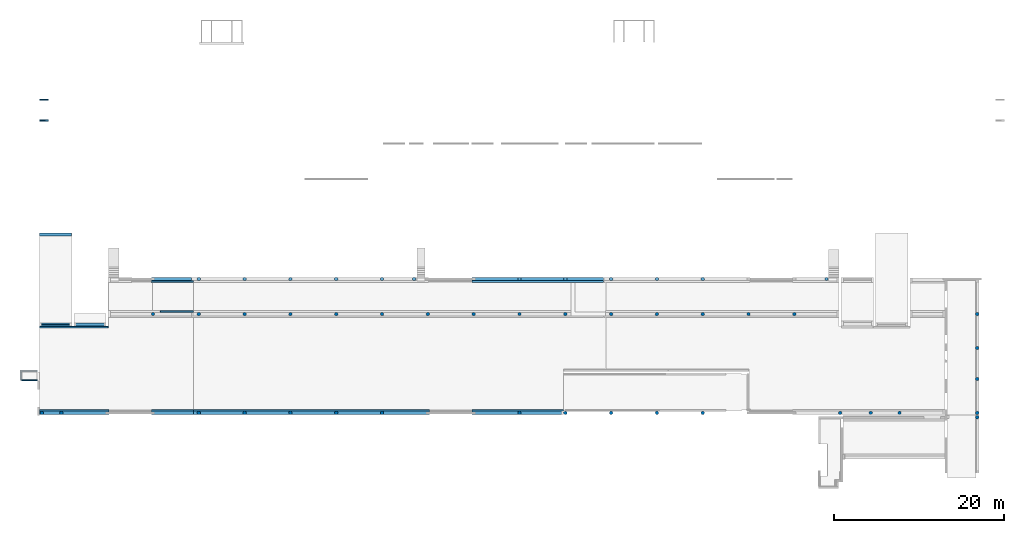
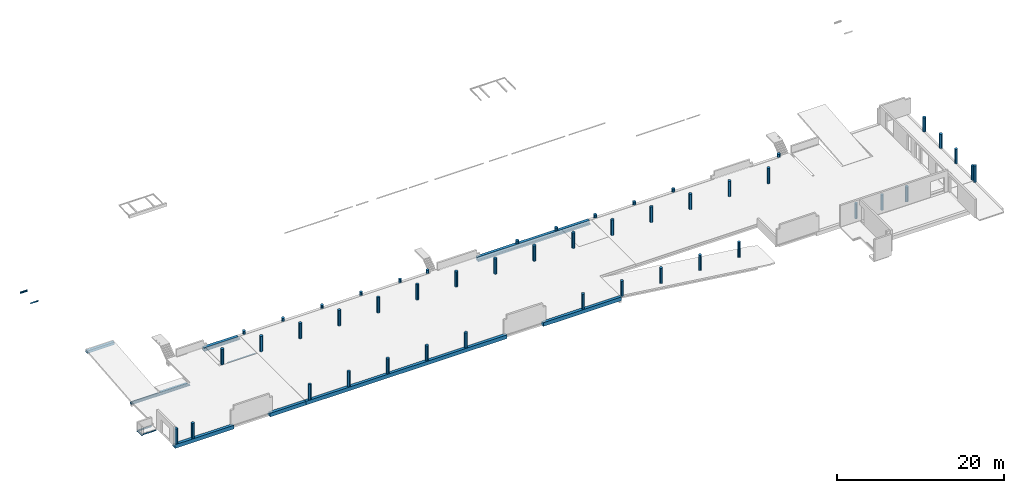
# One storey, part 1 of 9: 47 columns, 17 beams.
"""IFC2X3 building model written with IfcOpenShell, lengths in millimetres."""

from ifc_helpers import new_model, entity, si_unit, converted_unit, derived_unit, direction, frame, frame_2d, origin, origin_2d_with_axis, place, context, subcontext, project, spatial, polyline, circle_curve, parameter, trimmed, segment, composite_curve, rectangle, circle, i_section, outline, extrude, source, transform, mapped, material, type_object, type_shapes, element, save


model = new_model("IFC2X3")

# Units and contexts
model_context = context("Model", 3, precision=0.01, world=origin(), true_north=direction((6.12303176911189e-17, 1.0)))
body_context = subcontext(model_context, "Body", "Model", "MODEL_VIEW")
ifc_project = project(units=[si_unit("LENGTHUNIT", "METRE", prefix="MILLI"), si_unit("AREAUNIT", "SQUARE_METRE"), si_unit("VOLUMEUNIT", "CUBIC_METRE"), converted_unit("PLANEANGLEUNIT", "DEGREE", entity("IfcRatioMeasure", 0.0174532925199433), si_unit("PLANEANGLEUNIT", "RADIAN"), dimensions=[0, 0, 0, 0, 0, 0, 0]), si_unit("MASSUNIT", "GRAM", prefix="KILO"), derived_unit("MASSDENSITYUNIT", [(si_unit("MASSUNIT", "GRAM", prefix="KILO"), 1), (si_unit("LENGTHUNIT", "METRE"), -3)]), si_unit("TIMEUNIT", "SECOND"), si_unit("FREQUENCYUNIT", "HERTZ"), si_unit("THERMODYNAMICTEMPERATUREUNIT", "DEGREE_CELSIUS"), derived_unit("THERMALTRANSMITTANCEUNIT", [(si_unit("MASSUNIT", "GRAM", prefix="KILO"), 1), (si_unit("THERMODYNAMICTEMPERATUREUNIT", "KELVIN"), -1), (si_unit("TIMEUNIT", "SECOND"), -3)]), derived_unit("VOLUMETRICFLOWRATEUNIT", [(si_unit("LENGTHUNIT", "METRE"), 3), (si_unit("TIMEUNIT", "SECOND"), -1)]), si_unit("ELECTRICCURRENTUNIT", "AMPERE"), si_unit("ELECTRICVOLTAGEUNIT", "VOLT"), si_unit("POWERUNIT", "WATT"), si_unit("FORCEUNIT", "NEWTON", prefix="KILO"), si_unit("ILLUMINANCEUNIT", "LUX"), si_unit("LUMINOUSFLUXUNIT", "LUMEN"), si_unit("LUMINOUSINTENSITYUNIT", "CANDELA"), derived_unit("USERDEFINED", [(si_unit("MASSUNIT", "GRAM", prefix="KILO"), -1), (si_unit("LENGTHUNIT", "METRE"), -2), (si_unit("TIMEUNIT", "SECOND"), 3), (si_unit("LUMINOUSFLUXUNIT", "LUMEN"), 1)]), derived_unit("LINEARVELOCITYUNIT", [(si_unit("LENGTHUNIT", "METRE"), 1), (si_unit("TIMEUNIT", "SECOND"), -1)]), si_unit("PRESSUREUNIT", "PASCAL"), derived_unit("USERDEFINED", [(si_unit("LENGTHUNIT", "METRE"), -2), (si_unit("MASSUNIT", "GRAM", prefix="KILO"), 1), (si_unit("TIMEUNIT", "SECOND"), -2)])], contexts=[model_context])

# Site, building, storey
site_placement = place(None, origin())
site = spatial("IfcSite", under=ifc_project, at=site_placement, Name="Default", CompositionType="ELEMENT")
building_placement = place(site_placement, origin())
building = spatial("IfcBuilding", under=site, at=building_placement, Name="niet gebruiken", CompositionType="ELEMENT")
storey_placement = place(building_placement, frame((0.0, 0.0, 2770.0)))
storey = spatial("IfcBuildingStorey", under=building, at=storey_placement, Name="00a eerste tussenverdieping", CompositionType="ELEMENT", Elevation=2770.00000000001)

# Columns
ifc_material_1 = material(Name="NLRS_f2_beton prefab")
column_type_1 = type_object("IfcColumnType", Name="ø400", PredefinedType="COLUMN", material=ifc_material_1)
shared_shape_1 = source(origin(), body_context, "Body", "SweptSolid", [
    extrude(circle(Radius=200.0, at=frame_2d((1.69197988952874e-14, -3.02923644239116e-13), x_axis=(1.0, 0.0))), frame((0.0, 0.0, 2720.0)), (0.0, 0.0, 1.0), 2300.0),
])
type_shapes(column_type_1, [shared_shape_1])
for number, where in (
    (1, (21600.0, 20846.0, -2770.0)),
    (2, (27000.0, 20846.0, -2770.0)),
    (3, (32400.0, 20846.0, -2770.0)),
    (4, (37800.0, 20846.0, -2770.0)),
    (5, (43200.0, 20846.0, -2770.0)),
    (6, (48600.0, 20846.0, -2770.0)),
    (7, (54000.0, 20846.0, -2770.0)),
    (8, (59400.0, 20846.0, -2770.0)),
    (9, (64800.0, 20846.0, -2770.0)),
    (10, (70200.0, 20846.0, -2770.0)),
    (11, (75600.0, 20846.0, -2770.0)),
    (12, (81000.0, 20846.0, -2770.0)),
    (13, (86400.0, 20846.0, -2770.0)),
    (14, (91800.0, 20846.0, -2770.0)),
    (15, (97200.0, 20846.0, -2770.0)),
):
    element("IfcColumn", number, at=place(storey_placement, frame(where)), inside=storey, type_object=column_type_1, material=ifc_material_1, Name="NLRS_28. kolom rond_gen:ø400", ObjectType="ø400", context=body_context, shape_type="MappedRepresentation", body=[
        mapped(shared_shape_1, transform((0.0, 0.0, 0.0), scale=1.0)),
    ])
column_type_2 = type_object("IfcColumnType", Name="ø400", PredefinedType="COLUMN", material=ifc_material_1)
shared_shape_2 = source(origin(), body_context, "Body", "SweptSolid", [
    extrude(circle(Radius=200.0, at=frame_2d((1.69197988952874e-14, -3.02923644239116e-13), x_axis=(1.0, 0.0))), frame((0.0, 0.0, 2800.0)), (0.0, 0.0, 1.0), 459.999999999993),
])
type_shapes(column_type_2, [shared_shape_2])
for number, where in (
    (16, (27000.0, 24976.0, -2770.0)),
    (17, (32400.0, 24976.0, -2770.0)),
    (18, (37800.0, 24976.0, -2770.0)),
    (19, (43200.0, 24976.0, -2770.0)),
    (20, (48600.0, 24976.0, -2770.0)),
    (21, (52390.0, 24976.0, -2770.0)),
    (22, (64800.0, 24976.0, -2770.0)),
    (23, (70200.0, 24976.0, -2770.0)),
    (24, (75600.0, 24976.0, -2770.0)),
    (25, (81000.0, 24976.0, -2770.0)),
    (26, (86400.0, 24976.0, -2770.0)),
    (27, (100990.0, 24976.0, -2770.0)),
):
    element("IfcColumn", number, at=place(storey_placement, frame(where)), inside=storey, type_object=column_type_2, material=ifc_material_1, Name="NLRS_28. kolom rond_gen:ø400", ObjectType="ø400", context=body_context, shape_type="MappedRepresentation", body=[
        mapped(shared_shape_2, transform((0.0, 0.0, 0.0), scale=1.0)),
    ])
column_type_3 = type_object("IfcColumnType", Name="ø400", PredefinedType="COLUMN", material=ifc_material_1)
shared_shape_3 = source(origin(), body_context, "Body", "SweptSolid", [
    extrude(circle(Radius=200.0, at=frame_2d((1.69197988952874e-14, -3.02923644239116e-13), x_axis=(1.0, 0.0))), frame((0.0, 0.0, 2800.0)), (0.0, 0.0, 1.0), 2220.0),
])
type_shapes(column_type_3, [shared_shape_3])
for number, where in (
    (28, (10800.0, 9196.0, -2770.0)),
    (29, (27000.0, 9196.0, -2770.0)),
    (30, (32400.0, 9196.0, -2770.0)),
    (31, (37800.0, 9196.0, -2770.0)),
    (32, (43200.0, 9196.0, -2770.0)),
    (33, (48600.0, 9196.0, -2770.0)),
    (34, (64800.0, 9196.0, -2770.0)),
    (35, (70200.0, 9196.0, -2770.0)),
    (36, (75600.0, 9196.0, -2770.0)),
    (37, (81000.0, 9196.0, -2770.0)),
    (38, (86400.0, 9196.0, -2770.0)),
    (39, (102600.0, 9196.0, -2770.0)),
    (40, (109600.0, 9196.0, -2770.0)),
    (41, (106200.0, 9196.0, -2770.0)),
    (42, (8500.0, 9196.0, -2770.0)),
):
    element("IfcColumn", number, at=place(storey_placement, frame(where)), inside=storey, type_object=column_type_3, material=ifc_material_1, Name="NLRS_28. kolom rond_gen:ø400", ObjectType="ø400", context=body_context, shape_type="MappedRepresentation", body=[
        mapped(shared_shape_3, transform((0.0, 0.0, 0.0), scale=1.0)),
    ])
column_type_4 = type_object("IfcColumnType", Name="ø400", PredefinedType="COLUMN", material=ifc_material_1)
shared_shape_4 = source(origin(), body_context, "Body", "SweptSolid", [
    extrude(circle(Radius=199.999999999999, at=origin_2d_with_axis()), frame((118750.0, 9196.0, 2790.0), z_axis=(0.0, 0.0, 1.0), x_axis=(0.0, -1.0, 0.0)), (0.0, 0.0, 1.0), 2090.0),
])
type_shapes(column_type_4, [shared_shape_4])
column_1_placement = place(storey_placement, frame((0.0, 0.0, -2770.0)))
element("IfcColumn", 43, at=column_1_placement, inside=storey, type_object=column_type_4, material=ifc_material_1, Name="NLRS_28. kolom rond_gen:ø400", ObjectType="ø400", context=body_context, shape_type="MappedRepresentation", body=[
    mapped(shared_shape_4, transform((0.0, 0.0, 0.0), scale=1.0)),
])
column_type_5 = type_object("IfcColumnType", Name="ø400", PredefinedType="COLUMN", material=ifc_material_1)
shared_shape_5 = source(origin(), body_context, "Body", "SweptSolid", [
    extrude(circle(Radius=199.999999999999, at=origin_2d_with_axis()), frame((118750.0, 13196.0, 2790.0), z_axis=(0.0, 0.0, 1.0), x_axis=(0.0, -1.0, 0.0)), (0.0, 0.0, 1.0), 2090.0),
])
type_shapes(column_type_5, [shared_shape_5])
column_2_placement = place(storey_placement, frame((0.0, 0.0, -2770.0)))
element("IfcColumn", 44, at=column_2_placement, inside=storey, type_object=column_type_5, material=ifc_material_1, Name="NLRS_28. kolom rond_gen:ø400", ObjectType="ø400", context=body_context, shape_type="MappedRepresentation", body=[
    mapped(shared_shape_5, transform((0.0, 0.0, 0.0), scale=1.0)),
])
column_type_6 = type_object("IfcColumnType", Name="ø400", PredefinedType="COLUMN", material=ifc_material_1)
shared_shape_6 = source(origin(), body_context, "Body", "SweptSolid", [
    extrude(circle(Radius=199.999999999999, at=origin_2d_with_axis()), frame((118750.0, 16846.0, 2790.0), z_axis=(0.0, 0.0, 1.0), x_axis=(0.0, -1.0, 0.0)), (0.0, 0.0, 1.0), 2090.0),
])
type_shapes(column_type_6, [shared_shape_6])
column_3_placement = place(storey_placement, frame((0.0, 0.0, -2770.0)))
element("IfcColumn", 45, at=column_3_placement, inside=storey, type_object=column_type_6, material=ifc_material_1, Name="NLRS_28. kolom rond_gen:ø400", ObjectType="ø400", context=body_context, shape_type="MappedRepresentation", body=[
    mapped(shared_shape_6, transform((0.0, 0.0, 0.0), scale=1.0)),
])
column_type_7 = type_object("IfcColumnType", Name="ø400", PredefinedType="COLUMN", material=ifc_material_1)
shared_shape_7 = source(origin(), body_context, "Body", "SweptSolid", [
    extrude(circle(Radius=200.000000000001, at=origin_2d_with_axis()), frame((118750.0, 20846.0, 2790.0), z_axis=(0.0, 0.0, 1.0), x_axis=(0.0, -1.0, 0.0)), (0.0, 0.0, 1.0), 2090.0),
])
type_shapes(column_type_7, [shared_shape_7])
column_4_placement = place(storey_placement, frame((0.0, 0.0, -2770.0)))
element("IfcColumn", 46, at=column_4_placement, inside=storey, type_object=column_type_7, material=ifc_material_1, Name="NLRS_28. kolom rond_gen:ø400", ObjectType="ø400", context=body_context, shape_type="MappedRepresentation", body=[
    mapped(shared_shape_7, transform((0.0, 0.0, 0.0), scale=1.0)),
])
column_type_8 = type_object("IfcColumnType", Name="ø400", PredefinedType="COLUMN", material=ifc_material_1)
shared_shape_8 = source(origin(), body_context, "Body", "SweptSolid", [
    extrude(circle(Radius=199.999999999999, at=origin_2d_with_axis()), frame((118750.0, 8671.0, 2790.0), z_axis=(0.0, 0.0, 1.0), x_axis=(0.0, -1.0, 0.0)), (0.0, 0.0, 1.0), 2400.0),
])
type_shapes(column_type_8, [shared_shape_8])
column_5_placement = place(storey_placement, frame((0.0, 0.0, -2770.0)))
element("IfcColumn", 47, at=column_5_placement, inside=storey, type_object=column_type_8, material=ifc_material_1, Name="NLRS_28. kolom rond_gen:ø400", ObjectType="ø400", context=body_context, shape_type="MappedRepresentation", body=[
    mapped(shared_shape_8, transform((0.0, 0.0, 0.0), scale=1.0)),
])

# Beams
ifc_material_2 = material(Name="NLRS_h2_staal")
beam_type_1 = type_object("IfcBeamType", Name="NLRS_28.11_SF_WPB_stalen ligger hoekprofiel gelijkzijdig_gen:ligger gelijzijdig hoekprofiel LEQU_150x150x15", PredefinedType="BEAM")
beam_1_placement = place(storey_placement, frame((8245.0, 46133.5000000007, -330.0)))
element("IfcBeam", 48, at=beam_1_placement, inside=storey, type_object=beam_type_1, material=ifc_material_2, Name="NLRS_28.11_SF_WPB_stalen ligger hoekprofiel gelijkzijdig_gen:ligger gelijzijdig hoekprofiel LEQU_150x150x15", ObjectType="NLRS_28.11_SF_WPB_stalen ligger hoekprofiel gelijkzijdig_gen:ligger gelijzijdig hoekprofiel LEQU_150x150x15", context=body_context, shape_type="SweptSolid", body=[
    extrude(outline(composite_curve([segment(polyline([(49.6666666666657, -93.3333333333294), (56.6666666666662, -93.3333333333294)]), True, "CONTINUOUS"), segment(polyline([(56.6666666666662, -93.3333333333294), (56.6666666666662, 56.6666666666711)]), True, "CONTINUOUS"), segment(polyline([(56.6666666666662, 56.6666666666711), (-93.3333333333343, 56.6666666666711)]), True, "CONTINUOUS"), segment(polyline([(-93.3333333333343, 56.6666666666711), (-93.3333333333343, 49.6666666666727)]), True, "CONTINUOUS"), segment(trimmed(circle_curve(frame_2d((-85.3333333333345, 49.6666666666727), x_axis=(-1.0, 0.0)), 7.99999999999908), [parameter(0.0)], [parameter(90.0000000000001)], True, "PARAMETER"), True, "CONTINUOUS"), segment(polyline([(-85.3333333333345, 41.6666666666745), (25.6666666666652, 41.6666666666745)]), True, "CONTINUOUS"), segment(trimmed(circle_curve(frame_2d((25.666666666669, 25.6666666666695), x_axis=(0.0, 1.0)), 15.9999999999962), [parameter(269.999999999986)], [parameter(0.0)], True, "PARAMETER"), False, "CONTINUOUS"), segment(polyline([(41.6666666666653, 25.6666666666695), (41.6666666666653, -85.3333333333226)]), True, "CONTINUOUS"), segment(trimmed(circle_curve(frame_2d((49.6666666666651, -85.3333333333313), x_axis=(-1.0, 0.0)), 7.99999999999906), [parameter(0.0)], [parameter(90.0000000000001)], True, "PARAMETER"), True, "CONTINUOUS")], self_intersect=False)), frame((0.0, -14.1666666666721, 56.6666666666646), z_axis=(1.0, 0.0, 0.0), x_axis=(0.0, 0.0, -1.0)), (0.0, 0.0, 1.0), 999.999999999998),
])
beam_2_placement = place(storey_placement, frame((8245.0, 43618.5000000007, -330.0)))
element("IfcBeam", 49, at=beam_2_placement, inside=storey, type_object=beam_type_1, material=ifc_material_2, Name="NLRS_28.11_SF_WPB_stalen ligger hoekprofiel gelijkzijdig_gen:ligger gelijzijdig hoekprofiel LEQU_150x150x15", ObjectType="NLRS_28.11_SF_WPB_stalen ligger hoekprofiel gelijkzijdig_gen:ligger gelijzijdig hoekprofiel LEQU_150x150x15", context=body_context, shape_type="SweptSolid", body=[
    extrude(outline(composite_curve([segment(polyline([(-93.3333333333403, -56.6666666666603), (56.6666666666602, -56.6666666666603)]), True, "CONTINUOUS"), segment(polyline([(56.6666666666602, -56.6666666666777), (56.6666666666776, 93.3333333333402)]), True, "CONTINUOUS"), segment(polyline([(56.6666666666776, 93.3333333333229), (49.666666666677, 93.333333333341)]), True, "CONTINUOUS"), segment(trimmed(circle_curve(frame_2d((49.6666666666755, 85.3333333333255), x_axis=(0.0, 1.0)), 7.99999999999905), [parameter(0.0)], [parameter(90.0000000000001)], True, "PARAMETER"), True, "CONTINUOUS"), segment(polyline([(41.6666666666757, 85.3333333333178), (41.6666666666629, -25.6666666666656)]), True, "CONTINUOUS"), segment(trimmed(circle_curve(frame_2d((25.6666666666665, -25.6666666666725), x_axis=(1.0, 0.0)), 15.9999999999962), [parameter(269.999999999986)], [parameter(0.0)], True, "PARAMETER"), False, "CONTINUOUS"), segment(polyline([(25.6666666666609, -41.6666666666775), (-85.3333333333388, -41.6666666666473)]), True, "CONTINUOUS"), segment(trimmed(circle_curve(frame_2d((-85.3333333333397, -49.6666666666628), x_axis=(0.0, 1.0)), 7.99999999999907), [parameter(0.0)], [parameter(90.0000000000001)], True, "PARAMETER"), True, "CONTINUOUS"), segment(polyline([(-93.3333333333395, -49.6666666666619), (-93.3333333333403, -56.6666666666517)]), True, "CONTINUOUS")], self_intersect=False)), frame((0.0, 14.1666666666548, 56.6666666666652), z_axis=(1.0, 0.0, 0.0), x_axis=(0.0, 0.0, -1.0)), (0.0, 0.0, 1.0), 999.999999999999),
])
beam_type_2 = type_object("IfcBeamType", Name="NLRS_28.11_SF_WPB_prefabbeton balk enkele sponning_gen:600x540/200x200", PredefinedType="BEAM")
beam_3_placement = place(storey_placement, frame((8245.0, 9296.0, 10.0)))
element("IfcBeam", 50, at=beam_3_placement, inside=storey, type_object=beam_type_2, material=ifc_material_1, Name="NLRS_28.11_SF_WPB_prefabbeton balk enkele sponning_gen:600x540/200x200", ObjectType="NLRS_28.11_SF_WPB_prefabbeton balk enkele sponning_gen:600x540/200x200", context=body_context, shape_type="SweptSolid", body=[
    extrude(outline(polyline([(-293.333333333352, -333.333333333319), (246.666666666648, -333.333333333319), (246.66666666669, 266.666666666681), (46.6666666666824, 266.666666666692), (46.666666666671, 66.6666666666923), (-293.333333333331, 66.6666666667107), (-293.333333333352, -333.333333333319)])), frame((0.0, 33.3333333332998, -293.333333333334), z_axis=(1.0, 0.0, 0.0), x_axis=(0.0, 0.0, -1.0)), (0.0, 0.0, 1.0), 8155.0000000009),
])
beam_4_placement = place(storey_placement, frame((26370.0, 9296.0, 10.0)))
element("IfcBeam", 51, at=beam_4_placement, inside=storey, type_object=beam_type_2, material=ifc_material_1, Name="NLRS_28.11_SF_WPB_prefabbeton balk enkele sponning_gen:600x540/200x200", ObjectType="NLRS_28.11_SF_WPB_prefabbeton balk enkele sponning_gen:600x540/200x200", context=body_context, shape_type="SweptSolid", body=[
    extrude(outline(polyline([(-293.333333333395, -333.33333333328), (246.666666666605, -333.33333333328), (246.666666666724, 266.66666666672), (46.6666666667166, 266.666666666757), (46.6666666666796, 66.6666666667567), (-293.333333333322, 66.6666666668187), (-293.333333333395, -333.33333333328)])), frame((0.0, 33.3333333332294, -293.333333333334), z_axis=(1.0, 0.0, 0.0), x_axis=(0.0, 0.0, -1.0)), (0.0, 0.0, 1.0), 27829.9999999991),
])
beam_5_placement = place(storey_placement, frame((21400.0, 9296.0, 10.0)))
element("IfcBeam", 52, at=beam_5_placement, inside=storey, type_object=beam_type_2, material=ifc_material_1, Name="NLRS_28.11_SF_WPB_prefabbeton balk enkele sponning_gen:600x540/200x200", ObjectType="NLRS_28.11_SF_WPB_prefabbeton balk enkele sponning_gen:600x540/200x200", context=body_context, shape_type="SweptSolid", body=[
    extrude(outline(polyline([(-293.333333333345, -333.333333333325), (246.666666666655, -333.333333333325), (246.666666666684, 266.666666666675), (46.6666666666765, 266.666666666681), (46.6666666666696, 66.6666666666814), (-293.333333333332, 66.6666666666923), (-293.333333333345, -333.333333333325)])), frame((0.0, 33.3333333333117, -293.333333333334), z_axis=(1.0, 0.0, 0.0), x_axis=(0.0, 0.0, -1.0)), (0.0, 0.0, 1.0), 4949.99999999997),
])
beam_6_placement = place(storey_placement, frame((59200.0, 24876.0, 10.0)))
element("IfcBeam", 53, at=beam_6_placement, inside=storey, type_object=beam_type_2, material=ifc_material_1, Name="NLRS_28.11_SF_WPB_prefabbeton balk enkele sponning_gen:600x540/200x200", ObjectType="NLRS_28.11_SF_WPB_prefabbeton balk enkele sponning_gen:600x540/200x200", context=body_context, shape_type="SweptSolid", body=[
    extrude(outline(polyline([(46.6666666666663, -266.666666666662), (246.666666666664, -266.666666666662), (246.666666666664, 333.333333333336), (-293.333333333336, 333.333333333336), (-293.333333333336, -66.6666666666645), (46.6666666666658, -66.6666666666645), (46.6666666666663, -266.666666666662)])), frame((0.0, -33.3333333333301, -293.333333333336), z_axis=(1.0, 0.0, 0.0), x_axis=(0.0, 0.0, -1.0)), (0.0, 0.0, 1.0), 15530.0000000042),
])
beam_7_placement = place(storey_placement, frame((59200.0, 9296.0, 10.0)))
element("IfcBeam", 54, at=beam_7_placement, inside=storey, type_object=beam_type_2, material=ifc_material_1, Name="NLRS_28.11_SF_WPB_prefabbeton balk enkele sponning_gen:600x540/200x200", ObjectType="NLRS_28.11_SF_WPB_prefabbeton balk enkele sponning_gen:600x540/200x200", context=body_context, shape_type="SweptSolid", body=[
    extrude(outline(polyline([(-293.333333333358, -333.333333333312), (246.666666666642, -333.333333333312), (246.666666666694, 266.666666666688), (46.6666666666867, 266.666666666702), (46.6666666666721, 66.6666666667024), (-293.33333333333, 66.6666666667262), (-293.333333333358, -333.333333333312)])), frame((0.0, 33.33333333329, -293.333333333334), z_axis=(1.0, 0.0, 0.0), x_axis=(0.0, 0.0, -1.0)), (0.0, 0.0, 1.0), 10800.0000000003),
])
beam_type_3 = type_object("IfcBeamType", Name="NLRS_28.11_SF_WPB_stalen ligger HEA_gen:ligger HEA 160", PredefinedType="BEAM")
beam_8_placement = place(storey_placement, frame((6050.0, 14138.0, -200.0)))
element("IfcBeam", 55, at=beam_8_placement, inside=storey, type_object=beam_type_3, material=ifc_material_2, Name="NLRS_28.11_SF_WPB_stalen ligger HEA_gen:ligger HEA 160", ObjectType="NLRS_28.11_SF_WPB_stalen ligger HEA_gen:ligger HEA 160", context=body_context, shape_type="SweptSolid", body=[
    extrude(i_section(OverallWidth=160.000000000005, OverallDepth=152.000000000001, WebThickness=5.99999999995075, FlangeThickness=8.99999999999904, FilletRadius=15.0000000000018, at=frame_2d((-1.35713662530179e-12, 3.24718030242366e-12), x_axis=(0.0, 1.0))), frame((-125.0, 0.0, -76.0), z_axis=(1.0, 0.0, 0.0), x_axis=(0.0, 0.0, -1.0)), (0.0, 0.0, 1.0), 2040.0),
])
beam_9_placement = place(storey_placement, frame((6050.0, 14138.0, -200.0), z_axis=(0.0, 0.0, 1.0), x_axis=(0.0, -1.0, 0.0)))
element("IfcBeam", 56, at=beam_9_placement, inside=storey, type_object=beam_type_3, material=ifc_material_2, Name="NLRS_28.11_SF_WPB_stalen ligger HEA_gen:ligger HEA 160", ObjectType="NLRS_28.11_SF_WPB_stalen ligger HEA_gen:ligger HEA 160", context=body_context, shape_type="SweptSolid", body=[
    extrude(i_section(OverallWidth=159.999999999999, OverallDepth=152.000000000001, WebThickness=5.99999999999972, FlangeThickness=9.00000000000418, FilletRadius=14.9999999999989, at=frame_2d((-8.17124146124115e-13, 1.62714286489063e-12), x_axis=(0.0, 1.0))), frame((92.7000000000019, 0.0, -76.0), z_axis=(1.0, 0.0, 0.0), x_axis=(0.0, 0.0, -1.0)), (0.0, 0.0, 1.0), 1049.3),
])
beam_type_4 = type_object("IfcBeamType", Name="NLRS_28.11_SF_WPB_stalen ligger hoekprofiel gelijkzijdig_gen:ligger gelijzijdig hoekprofiel LEQU_200x200x15", PredefinedType="BEAM")
beam_10_placement = place(storey_placement, frame((8245.0, 19226.0, -252.500000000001)))
element("IfcBeam", 57, at=beam_10_placement, inside=storey, type_object=beam_type_4, material=ifc_material_2, Name="NLRS_28.11_SF_WPB_stalen ligger hoekprofiel gelijkzijdig_gen:ligger gelijzijdig hoekprofiel LEQU_200x200x15", ObjectType="NLRS_28.11_SF_WPB_stalen ligger hoekprofiel gelijkzijdig_gen:ligger gelijzijdig hoekprofiel LEQU_200x200x15", context=body_context, shape_type="SweptSolid", body=[
    extrude(outline(composite_curve([segment(polyline([(66.3333333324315, -126.66666666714), (73.3333333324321, -126.66666666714)]), True, "CONTINUOUS"), segment(polyline([(73.3333333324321, -126.66666666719), (73.3333333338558, 73.333333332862)]), True, "CONTINUOUS"), segment(polyline([(73.3333333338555, 73.33333333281), (-126.666666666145, 73.3333333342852)]), True, "CONTINUOUS"), segment(polyline([(-126.666666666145, 73.3333333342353), (-126.666666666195, 66.3333333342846)]), True, "CONTINUOUS"), segment(trimmed(circle_curve(frame_2d((-118.666666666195, 66.3333333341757), x_axis=(-1.0, 0.0)), 8.00000000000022), [parameter(0.0)], [parameter(90.0000000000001)], True, "PARAMETER"), True, "CONTINUOUS"), segment(polyline([(-118.666666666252, 58.3333333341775), (42.333333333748, 58.3333333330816)]), True, "CONTINUOUS"), segment(trimmed(circle_curve(frame_2d((42.3333333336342, 42.3333333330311), x_axis=(0.0, 1.0)), 16.0000000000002), [parameter(270.0)], [parameter(0.0)], True, "PARAMETER"), False, "CONTINUOUS"), segment(polyline([(58.3333333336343, 42.3333333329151), (58.3333333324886, -118.666666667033)]), True, "CONTINUOUS"), segment(trimmed(circle_curve(frame_2d((66.3333333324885, -118.66666666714), x_axis=(-1.0, 0.0)), 8.00000000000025), [parameter(0.0)], [parameter(89.9999999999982)], True, "PARAMETER"), True, "CONTINUOUS")], self_intersect=False)), frame((0.0, 126.666666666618, -19.1666666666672), z_axis=(1.0, 0.0, 0.0), x_axis=(0.0, 0.0, -1.0)), (0.0, 0.0, 1.0), 8080.00000000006),
])
beam_11_placement = place(storey_placement, frame((21400.0, 24576.0, -252.499999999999)))
element("IfcBeam", 58, at=beam_11_placement, inside=storey, type_object=beam_type_4, material=ifc_material_2, Name="NLRS_28.11_SF_WPB_stalen ligger hoekprofiel gelijkzijdig_gen:ligger gelijzijdig hoekprofiel LEQU_200x200x15", ObjectType="NLRS_28.11_SF_WPB_stalen ligger hoekprofiel gelijkzijdig_gen:ligger gelijzijdig hoekprofiel LEQU_200x200x15", context=body_context, shape_type="SweptSolid", body=[
    extrude(outline(composite_curve([segment(polyline([(66.3333333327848, -126.666666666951), (73.3333333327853, -126.666666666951)]), True, "CONTINUOUS"), segment(polyline([(73.3333333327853, -126.666666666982), (73.3333333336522, 73.333333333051)]), True, "CONTINUOUS"), segment(polyline([(73.3333333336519, 73.3333333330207), (-126.666666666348, 73.3333333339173)]), True, "CONTINUOUS"), segment(polyline([(-126.666666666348, 73.3333333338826), (-126.666666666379, 66.3333333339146)]), True, "CONTINUOUS"), segment(trimmed(circle_curve(frame_2d((-118.666666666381, 66.3333333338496), x_axis=(-1.0, 0.0)), 7.99999999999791), [parameter(0.0)], [parameter(90.0000000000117)], True, "PARAMETER"), True, "CONTINUOUS"), segment(polyline([(-118.666666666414, 58.3333333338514), (42.3333333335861, 58.3333333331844)]), True, "CONTINUOUS"), segment(trimmed(circle_curve(frame_2d((42.3333333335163, 42.3333333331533), x_axis=(0.0, 1.0)), 16.0000000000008), [parameter(270.000000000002)], [parameter(0.0)], True, "PARAMETER"), False, "CONTINUOUS"), segment(polyline([(58.333333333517, 42.333333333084), (58.3333333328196, -118.666666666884)]), True, "CONTINUOUS"), segment(trimmed(circle_curve(frame_2d((66.3333333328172, -118.666666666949), x_axis=(-1.0, 0.0)), 7.99999999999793), [parameter(0.0)], [parameter(90.0000000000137)], True, "PARAMETER"), True, "CONTINUOUS")], self_intersect=False)), frame((0.0, 126.666666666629, -19.1666666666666), z_axis=(1.0, 0.0, 0.0), x_axis=(0.0, 0.0, -1.0)), (0.0, 0.0, 1.0), 4950.00000000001),
])
beam_12_placement = place(storey_placement, frame((22470.0, 21246.0, -252.5)))
element("IfcBeam", 59, at=beam_12_placement, inside=storey, type_object=beam_type_4, material=ifc_material_2, Name="NLRS_28.11_SF_WPB_stalen ligger hoekprofiel gelijkzijdig_gen:ligger gelijzijdig hoekprofiel LEQU_200x200x15", ObjectType="NLRS_28.11_SF_WPB_stalen ligger hoekprofiel gelijkzijdig_gen:ligger gelijzijdig hoekprofiel LEQU_200x200x15", context=body_context, shape_type="SweptSolid", body=[
    extrude(outline(composite_curve([segment(polyline([(-126.66666666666, -73.3333333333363), (73.3333333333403, -73.3333333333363)]), True, "CONTINUOUS"), segment(polyline([(73.3333333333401, -73.3333333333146), (73.3333333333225, 126.666666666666)]), True, "CONTINUOUS"), segment(polyline([(73.3333333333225, 126.666666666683), (66.3333333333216, 126.666666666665)]), True, "CONTINUOUS"), segment(trimmed(circle_curve(frame_2d((66.3333333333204, 118.666666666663), x_axis=(0.0, 1.0)), 7.99999999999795), [parameter(0.0)], [parameter(90.0000000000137)], True, "PARAMETER"), True, "CONTINUOUS"), segment(polyline([(58.3333333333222, 118.666666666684), (58.3333333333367, -42.333333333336)]), True, "CONTINUOUS"), segment(trimmed(circle_curve(frame_2d((42.333333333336, -42.3333333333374), x_axis=(1.0, 0.0)), 16.0000000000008), [parameter(270.000000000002)], [parameter(0.0)], True, "PARAMETER"), False, "CONTINUOUS"), segment(polyline([(42.333333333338, -58.3333333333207), (-118.666666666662, -58.333333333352)]), True, "CONTINUOUS"), segment(trimmed(circle_curve(frame_2d((-118.666666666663, -66.3333333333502), x_axis=(0.0, 1.0)), 7.99999999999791), [parameter(0.0)], [parameter(90.0000000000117)], True, "PARAMETER"), True, "CONTINUOUS"), segment(polyline([(-126.666666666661, -66.3333333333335), (-126.66666666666, -73.3333333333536)]), True, "CONTINUOUS")], self_intersect=False)), frame((10.0, -126.666666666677, -19.1666666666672), z_axis=(1.0, 0.0, 0.0), x_axis=(0.0, 0.0, -1.0)), (0.0, 0.0, 1.0), 3870.00000000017),
])
beam_type_5 = type_object("IfcBeamType", Name="NLRS_28.11_SF_WPB_stalen ligger hoekprofiel gelijkzijdig_gen:ligger gelijzijdig hoekprofiel LEQU_120x120x12", PredefinedType="BEAM")
beam_13_placement = place(storey_placement, frame((6130.0, 13020.0, -92.0)))
element("IfcBeam", 60, at=beam_13_placement, inside=storey, type_object=beam_type_5, material=ifc_material_2, Name="NLRS_28.11_SF_WPB_stalen ligger hoekprofiel gelijkzijdig_gen:ligger gelijzijdig hoekprofiel LEQU_120x120x12", ObjectType="NLRS_28.11_SF_WPB_stalen ligger hoekprofiel gelijkzijdig_gen:ligger gelijzijdig hoekprofiel LEQU_120x120x12", context=body_context, shape_type="SweptSolid", body=[
    extrude(outline(composite_curve([segment(polyline([(-74.6666666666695, -45.3333333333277), (45.3333333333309, -45.3333333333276)]), True, "CONTINUOUS"), segment(polyline([(45.3333333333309, -45.3333333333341), (45.3333333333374, 74.6666666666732)]), True, "CONTINUOUS"), segment(polyline([(45.3333333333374, 74.6666666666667), (39.8333333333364, 74.6666666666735)]), True, "CONTINUOUS"), segment(trimmed(circle_curve(frame_2d((39.8333333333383, 68.1666666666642), x_axis=(0.0, 1.0)), 6.50000000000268), [parameter(0.0)], [parameter(89.9999999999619)], True, "PARAMETER"), True, "CONTINUOUS"), segment(polyline([(33.3333333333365, 68.1666666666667), (33.3333333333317, -20.3333333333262)]), True, "CONTINUOUS"), segment(trimmed(circle_curve(frame_2d((20.3333333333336, -20.3333333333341), x_axis=(1.0, 0.0)), 12.9999999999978), [parameter(269.999999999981)], [parameter(0.0)], True, "PARAMETER"), False, "CONTINUOUS"), segment(polyline([(20.3333333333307, -33.3333333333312), (-68.1666666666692, -33.3333333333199)]), True, "CONTINUOUS"), segment(trimmed(circle_curve(frame_2d((-68.1666666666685, -39.8333333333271), x_axis=(0.0, 1.0)), 6.50000000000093), [parameter(0.0)], [parameter(89.9999999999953)], True, "PARAMETER"), True, "CONTINUOUS"), segment(polyline([(-74.6666666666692, -39.8333333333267), (-74.6666666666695, -45.3333333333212)]), True, "CONTINUOUS")], self_intersect=False)), frame((12.7000006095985, 11.3333333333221, -74.6666666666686), z_axis=(1.0, 0.0, 0.0), x_axis=(0.0, 0.0, -1.0)), (0.0, 0.0, 1.0), 1822.02346250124),
])
beam_type_6 = type_object("IfcBeamType", Name="NLRS_28.11_SF_WPB_prefabbeton balk recht_gen:400x540", PredefinedType="BEAM")
beam_14_placement = place(storey_placement, frame((21400.0, 24976.0, 10.0)))
element("IfcBeam", 61, at=beam_14_placement, inside=storey, type_object=beam_type_6, material=ifc_material_1, Name="NLRS_28.11_SF_WPB_prefabbeton balk recht_gen:400x540", ObjectType="NLRS_28.11_SF_WPB_prefabbeton balk recht_gen:400x540", context=body_context, shape_type="SweptSolid", body=[
    extrude(rectangle(XDim=540.0, YDim=400.0, at=frame_2d((-2.55795384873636e-13, -2.17426077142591e-12), x_axis=(1.0, 0.0))), frame((0.0, 0.0, -270.0), z_axis=(1.0, 0.0, 0.0), x_axis=(0.0, 0.0, -1.0)), (0.0, 0.0, 1.0), 4715.00000000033),
])
beam_type_7 = type_object("IfcBeamType", Name="NLRS_28.11_SF_WPB_prefabbeton balk recht_gen:380x350", PredefinedType="BEAM")
beam_15_placement = place(storey_placement, frame((8245.0, 30236.0, 940.0)))
element("IfcBeam", 62, at=beam_15_placement, inside=storey, type_object=beam_type_7, material=ifc_material_1, Name="NLRS_28.11_SF_WPB_prefabbeton balk recht_gen:380x350", ObjectType="NLRS_28.11_SF_WPB_prefabbeton balk recht_gen:380x350", context=body_context, shape_type="SweptSolid", body=[
    extrude(rectangle(XDim=350.0, YDim=380.0, at=frame_2d((2.70006239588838e-13, 8.66862137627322e-12), x_axis=(1.0, 0.0))), frame((0.0, 0.0, -175.0), z_axis=(1.0, 0.0, 0.0), x_axis=(0.0, 0.0, -1.0)), (0.0, 0.0, 1.0), 3760.00000000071),
])
beam_16_placement = place(storey_placement, frame((12295.0, 19616.0, -100.0)))
element("IfcBeam", 63, at=beam_16_placement, inside=storey, type_object=beam_type_7, material=ifc_material_1, Name="NLRS_28.11_SF_WPB_prefabbeton balk recht_gen:380x350", ObjectType="NLRS_28.11_SF_WPB_prefabbeton balk recht_gen:380x350", context=body_context, shape_type="SweptSolid", body=[
    extrude(rectangle(XDim=350.0, YDim=380.000000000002, at=frame_2d((-2.70006239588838e-13, 2.92459390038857e-11), x_axis=(1.0, 0.0))), frame((0.0, 0.0, -175.0), z_axis=(1.0, 0.0, 0.0), x_axis=(0.0, 0.0, -1.0)), (0.0, 0.0, 1.0), 3759.99999999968),
])
beam_type_8 = type_object("IfcBeamType", Name="NLRS_28.11_SF_WPB_prefabbeton balk enkele sponning_gen:380x370/180x150", PredefinedType="BEAM")
beam_17_placement = place(storey_placement, frame((8245.0, 19616.0, -80.0)))
element("IfcBeam", 64, at=beam_17_placement, inside=storey, type_object=beam_type_8, material=ifc_material_1, Name="NLRS_28.11_SF_WPB_prefabbeton balk enkele sponning_gen:380x370/180x150", ObjectType="NLRS_28.11_SF_WPB_prefabbeton balk enkele sponning_gen:380x370/180x150", context=body_context, shape_type="SweptSolid", body=[
    extrude(outline(polyline([(-173.333333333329, -193.333333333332), (196.66666666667, -193.333333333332), (196.666666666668, 186.666666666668), (-23.3333333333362, 186.666666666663), (-23.3333333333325, 6.66666666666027), (-173.333333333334, 6.66666666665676), (-173.333333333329, -193.333333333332)])), frame((0.0, 3.33333333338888, -173.333333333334), z_axis=(1.0, 0.0, 0.0), x_axis=(0.0, 0.0, -1.0)), (0.0, 0.0, 1.0), 3760.0000000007),
])

save(model, "model.ifc")
